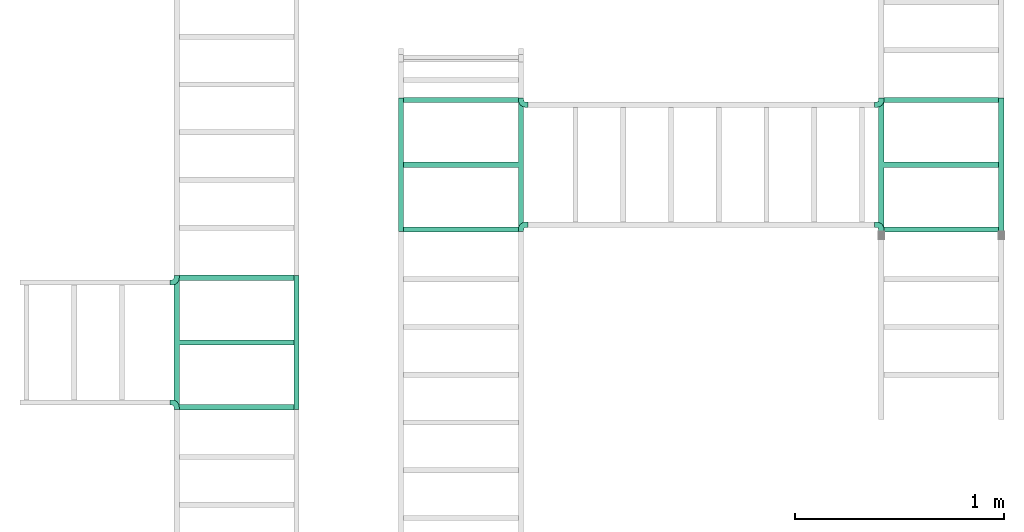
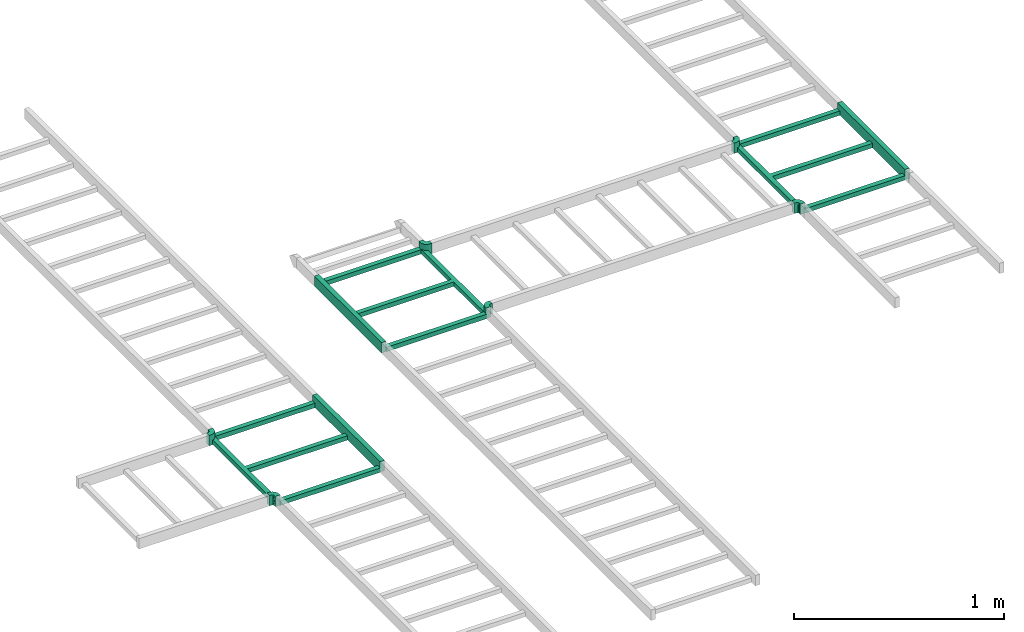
# One storey, part 1 of 3: 3 flow fittings.
"""IFC2X3 building model written with IfcOpenShell, lengths in millimetres."""

from ifc_helpers import new_model, entity, si_unit, converted_unit, derived_unit, direction, frame, origin_with_axes, place, context, subcontext, project, spatial, open_shell, surface_model, source, transform, mapped, type_object, element, save


model = new_model("IFC2X3")

# Units and contexts
model_context = context("Model", 3, precision=0.01, world=frame((0.0, 4.29681676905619e-09, 0.0)), true_north=direction((4.01073788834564e-13, 1.0)))
plan_context = context("Plan", 3, precision=0.01, world=frame((0.0, 4.29681676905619e-09, 0.0)), true_north=direction((4.01073788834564e-13, 1.0)))
body_context = subcontext(model_context, "Body", "Model", "MODEL_VIEW")
ifc_project = project(units=[converted_unit("PLANEANGLEUNIT", "DEGREE", entity("IfcPositiveLengthMeasure", 0.0174532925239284), si_unit("PLANEANGLEUNIT", "RADIAN"), dimensions=[0, 0, 0, 0, 0, 0, 0]), si_unit("AREAUNIT", "SQUARE_METRE"), si_unit("LENGTHUNIT", "METRE", prefix="MILLI"), si_unit("MASSUNIT", "GRAM", prefix="KILO"), si_unit("POWERUNIT", "WATT"), si_unit("PRESSUREUNIT", "PASCAL", prefix="KILO"), si_unit("FORCEUNIT", "NEWTON", prefix="KILO"), si_unit("ELECTRICVOLTAGEUNIT", "VOLT"), si_unit("ELECTRICCURRENTUNIT", "AMPERE"), si_unit("THERMODYNAMICTEMPERATUREUNIT", "DEGREE_CELSIUS"), si_unit("TIMEUNIT", "SECOND"), si_unit("VOLUMEUNIT", "CUBIC_METRE"), derived_unit("LINEARVELOCITYUNIT", [(si_unit("LENGTHUNIT", "METRE"), 1), (si_unit("TIMEUNIT", "SECOND"), -1)]), derived_unit("VOLUMETRICFLOWRATEUNIT", [(si_unit("VOLUMEUNIT", "CUBIC_METRE"), 1), (si_unit("TIMEUNIT", "SECOND"), -1)]), derived_unit("THERMALTRANSMITTANCEUNIT", [(si_unit("POWERUNIT", "WATT"), 1), (si_unit("THERMODYNAMICTEMPERATUREUNIT", "KELVIN"), -1), (si_unit("AREAUNIT", "SQUARE_METRE"), -1)]), derived_unit("SOUNDPRESSUREUNIT", [(si_unit("PRESSUREUNIT", "PASCAL"), 1)])], contexts=[model_context, plan_context])

# Site, building, storey
site_placement = place(None, frame((0.0, -4.29681676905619e-09, 0.0), z_axis=(0.0, 0.0, 1.0), x_axis=(1.0, 0.0, 0.0)))
site = spatial("IfcSite", under=ifc_project, at=site_placement, Name="ENGM", CompositionType="ELEMENT")
building_placement = place(site_placement, frame((0.0, 4.29681676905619e-09, 0.0), z_axis=(0.0, 0.0, 1.0), x_axis=(1.0, 0.0, 0.0)))
building = spatial("IfcBuilding", under=site, at=building_placement, Name="TS", CompositionType="ELEMENT")
storey_placement = place(building_placement, frame((0.0, 0.0, 200300.0), z_axis=(0.0, 0.0, 1.0), x_axis=(1.0, 0.0, 0.0)))
storey = spatial("IfcBuildingStorey", under=building, at=storey_placement, Name="Nivå C", CompositionType="ELEMENT", Elevation=200300.0)

# Flow fittings
cable_carrier_fitting_type = type_object("IfcCableCarrierFittingType", Name="10mm Radius", PredefinedType="TEE")
shared_shape = source(origin_with_axes(), body_context, "Body", "SurfaceModel", [
    surface_model("IfcShellBasedSurfaceModel", [(322.7, -274.60001, -4.6), (322.7, 274.60001, -4.6), (297.3, 274.60001, -4.6), (297.3, -274.60001, -4.6), (297.3, -274.60001, -30.0), (297.3, 274.60001, -30.0), (322.7, 274.60001, -30.0), (322.7, -274.60001, -30.0), (12.7, -274.60001, -4.6), (12.7, 274.60001, -4.6), (-12.7, 274.60001, -4.6), (-12.7, -274.60001, -4.6), (-12.7, -274.60001, -30.0), (-12.7, 274.60001, -30.0), (12.7, 274.60001, -30.0), (12.7, -274.60001, -30.0), (-297.3, -274.60001, -4.6), (-297.3, 274.60001, -4.6), (-322.7, 274.60001, -4.6), (-322.7, -274.60001, -4.6), (-322.7, -274.60001, -30.0), (-322.7, 274.60001, -30.0), (-297.3, 274.60001, -30.0), (-297.3, -274.60001, -30.0), (-310.0, -274.60001, 30.0), (-320.00002, -274.60001, 30.0), (-310.0, -300.0, 30.0), (-320.00002, -300.0, 30.0), (-307.4118, -300.34073, 30.0), (-304.99999, -301.33975, 30.0), (-292.3, -279.34271, 30.0), (-300.83781, -275.80622, 30.0), (-279.34271, -292.3, 30.0), (-284.96842, -284.96842, 30.0), (-302.92893, -302.92893, 30.0), (-301.33975, -304.99999, 30.0), (-300.34073, -307.4118, 30.0), (-275.80622, -300.83781, 30.0), (-274.60001, -310.0, 30.0), (-300.0, -310.0, 30.0), (-300.0, -320.00002, 30.0), (-274.60001, -320.00002, 30.0), (304.99999, -301.33975, 30.0), (307.4118, -300.34073, 30.0), (300.83781, -275.80622, 30.0), (292.3, -279.34271, 30.0), (284.96842, -284.96842, 30.0), (302.92893, -302.92893, 30.0), (320.00002, -274.60001, 30.0), (310.0, -274.60001, 30.0), (310.0, -300.0, 30.0), (320.00002, -300.0, 30.0), (279.34271, -292.3, 30.0), (300.34073, -307.4118, 30.0), (275.80622, -300.83781, 30.0), (274.60001, -310.0, 30.0), (300.0, -310.0, 30.0), (274.60001, -320.00002, 30.0), (300.0, -320.00002, 30.0), (301.33975, -304.99999, 30.0), (320.00002, 300.0, 30.0), (-320.00002, 300.0, 30.0), (320.00002, 274.60001, 30.0), (-320.00002, 274.60001, 30.0), (-300.0, -320.00002, -30.0), (-300.0, -310.0, -30.0), (-274.60001, -320.00002, -30.0), (-274.60001, -310.0, -30.0), (-274.96527, -304.92779, -30.0), (-300.34073, -307.4118, -30.0), (-276.0418, -300.0, -30.0), (-301.33975, -304.99999, -30.0), (300.0, -320.00002, -30.0), (274.60001, -320.00002, -30.0), (300.0, -310.0, -30.0), (274.60001, -310.0, -30.0), (274.96527, -304.92779, -30.0), (300.34073, -307.4118, -30.0), (276.0418, -300.0, -30.0), (301.33975, -304.99999, -30.0), (-304.99999, -301.33975, -30.0), (-307.4118, -300.34073, -30.0), (-320.00002, -274.60001, -30.0), (-302.92893, -302.92893, -30.0), (-320.00002, -300.0, -30.0), (-310.0, -300.0, -30.0), (320.00002, -274.60001, -30.0), (304.99999, -301.33975, -30.0), (302.92893, -302.92893, -30.0), (307.4118, -300.34073, -30.0), (310.0, -300.0, -30.0), (320.00002, -300.0, -30.0), (320.00002, 274.60001, -30.0), (-320.00002, 274.60001, -30.0), (-320.00002, 300.0, -30.0), (320.00002, 300.0, -30.0), (-276.0418, -300.0, -4.6), (-279.69674, -291.70049, -4.6), (-285.34038, -284.60191, -4.6), (-292.60234, -279.17011, -4.6), (-301.00605, -275.76158, -4.6), (-310.0, -274.60001, -4.6), (310.0, -274.60001, -4.6), (-310.0, -300.0, -4.6), (310.0, -300.0, -4.6), (301.00605, -275.76158, -4.6), (292.60234, -279.17011, -4.6), (285.34038, -284.60191, -4.6), (279.69674, -291.70049, -4.6), (276.0418, -300.0, -4.6)], [open_shell([[[0, 1, 2]], [[2, 3, 0]], [[4, 5, 6]], [[6, 7, 4]], [[2, 1, 5]], [[6, 5, 1]], [[3, 2, 5]], [[5, 4, 3]], [[0, 3, 7]], [[4, 7, 3]], [[1, 0, 7]], [[7, 6, 1]], [[8, 9, 10]], [[10, 11, 8]], [[12, 13, 14]], [[14, 15, 12]], [[10, 9, 13]], [[14, 13, 9]], [[11, 10, 13]], [[13, 12, 11]], [[8, 11, 15]], [[12, 15, 11]], [[9, 8, 15]], [[15, 14, 9]], [[16, 17, 18]], [[18, 19, 16]], [[20, 21, 22]], [[22, 23, 20]], [[18, 17, 21]], [[22, 21, 17]], [[19, 18, 21]], [[21, 20, 19]], [[16, 19, 23]], [[20, 23, 19]], [[17, 16, 23]], [[23, 22, 17]], [[24, 25, 26]], [[27, 26, 25]], [[24, 26, 28]], [[29, 30, 31]], [[32, 33, 34]], [[30, 34, 33]], [[31, 28, 29]], [[31, 24, 28]], [[35, 32, 34]], [[35, 36, 37]], [[35, 37, 32]], [[37, 36, 38]], [[39, 40, 41]], [[39, 41, 38]], [[36, 39, 38]], [[34, 30, 29]], [[42, 43, 44]], [[42, 44, 45]], [[45, 46, 47]], [[48, 49, 50]], [[43, 50, 49]], [[50, 51, 48]], [[49, 44, 43]], [[46, 52, 47]], [[53, 54, 55]], [[56, 57, 58]], [[57, 56, 55]], [[53, 55, 56]], [[42, 45, 47]], [[53, 59, 54]], [[52, 59, 47]], [[52, 54, 59]], [[60, 61, 62]], [[63, 62, 61]], [[64, 65, 66]], [[66, 65, 67]], [[68, 69, 70]], [[67, 65, 68]], [[69, 71, 70]], [[68, 65, 69]], [[72, 73, 74]], [[74, 73, 75]], [[76, 77, 74]], [[78, 79, 77]], [[77, 76, 78]], [[76, 74, 75]], [[80, 81, 82]], [[83, 80, 70]], [[84, 82, 85]], [[82, 81, 85]], [[80, 82, 70]], [[82, 86, 70]], [[87, 88, 78]], [[89, 87, 86]], [[89, 86, 90]], [[86, 87, 78]], [[86, 91, 90]], [[78, 70, 86]], [[79, 78, 88]], [[71, 83, 70]], [[92, 93, 94]], [[94, 95, 92]], [[40, 39, 65]], [[65, 64, 40]], [[41, 40, 64]], [[64, 66, 41]], [[38, 41, 67]], [[66, 67, 41]], [[38, 67, 68]], [[70, 96, 68]], [[38, 68, 96]], [[38, 96, 37]], [[32, 97, 33]], [[32, 37, 96]], [[97, 32, 96]], [[98, 99, 30]], [[100, 101, 24]], [[99, 100, 31]], [[33, 98, 30]], [[30, 99, 31]], [[100, 24, 31]], [[98, 33, 97]], [[49, 48, 102]], [[25, 24, 101]], [[102, 86, 82]], [[86, 102, 48]], [[101, 82, 25]], [[82, 101, 102]], [[27, 25, 84]], [[82, 84, 25]], [[26, 27, 103]], [[103, 84, 85]], [[84, 103, 27]], [[28, 26, 103]], [[29, 28, 103]], [[81, 103, 85]], [[103, 81, 80]], [[83, 103, 80]], [[34, 29, 103]], [[35, 34, 83]], [[71, 36, 35]], [[36, 69, 39]], [[71, 35, 83]], [[36, 71, 69]], [[39, 69, 65]], [[103, 83, 34]], [[53, 56, 77]], [[59, 53, 79]], [[77, 56, 74]], [[53, 77, 79]], [[59, 79, 88]], [[88, 47, 59]], [[42, 47, 104]], [[104, 43, 42]], [[43, 104, 50]], [[104, 87, 89]], [[89, 90, 104]], [[87, 104, 88]], [[47, 88, 104]], [[51, 50, 104]], [[104, 90, 91]], [[104, 91, 51]], [[48, 51, 86]], [[91, 86, 51]], [[49, 102, 105]], [[44, 105, 106]], [[45, 106, 107]], [[49, 105, 44]], [[44, 106, 45]], [[107, 46, 45]], [[107, 108, 46]], [[109, 78, 76]], [[109, 76, 55]], [[55, 76, 75]], [[108, 52, 46]], [[108, 109, 52]], [[52, 109, 54]], [[109, 55, 54]], [[57, 55, 75]], [[75, 73, 57]], [[58, 57, 73]], [[73, 72, 58]], [[56, 58, 72]], [[72, 74, 56]], [[61, 60, 95]], [[95, 94, 61]], [[63, 61, 94]], [[94, 93, 63]], [[62, 63, 93]], [[93, 92, 62]], [[60, 62, 92]], [[92, 95, 60]], [[105, 102, 101]], [[106, 105, 100]], [[108, 107, 98]], [[109, 108, 97]], [[106, 99, 107]], [[100, 99, 106]], [[101, 100, 105]], [[97, 96, 109]], [[98, 97, 108]], [[99, 98, 107]], [[109, 96, 70]], [[70, 78, 109]]])]),
])
for number, where, z_axis, x_axis, name in (
    (1, (599338.05418, 401345.46354, 2730.0), (0.0, 0.0, 1.0), (0.0, -1.0, 0.0), "10mm Radius"),
    (2, (597037.74959, 401345.46354, 2730.0), (0.0, 0.0, 1.0), (0.0, 1.0, 0.0), "10mm Radius"),
    (3, (595962.86926, 400494.07572, 2730.0), (0.0, 0.0, 1.0), (0.0, -1.0, 0.0), "10mm Radius"),
):
    element("IfcFlowFitting", number, at=place(storey_placement, frame(where, z_axis=z_axis, x_axis=x_axis)), inside=storey, type_object=cable_carrier_fitting_type, Name=name, context=body_context, shape_type="MappedRepresentation", body=[
        mapped(shared_shape, transform((0.0, 0.0, 0.0), scale=1.0)),
    ])

save(model, "model.ifc")
